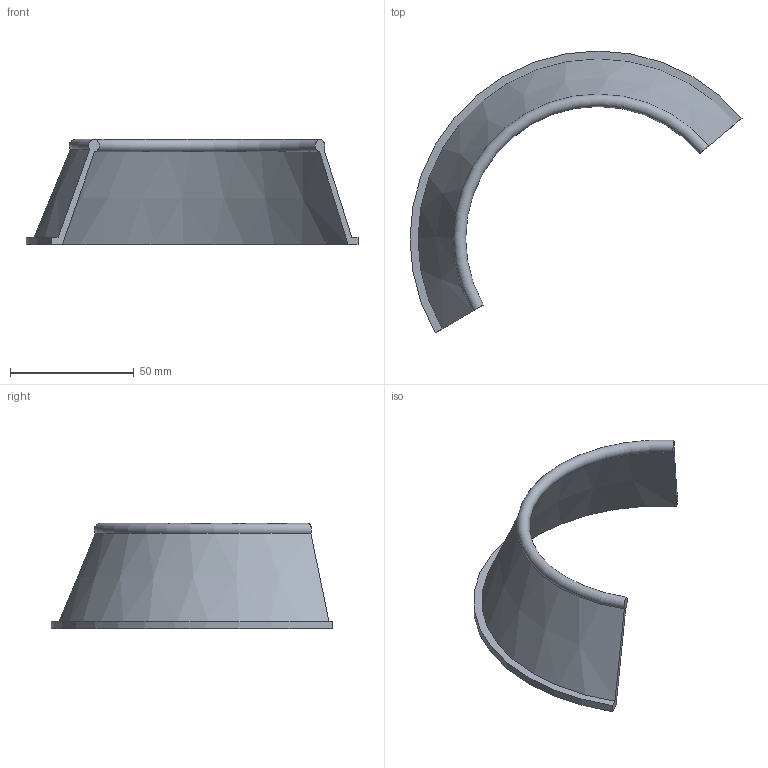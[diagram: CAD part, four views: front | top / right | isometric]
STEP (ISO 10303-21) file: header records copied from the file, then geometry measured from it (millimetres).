
FILE_DESCRIPTION(('Open CASCADE Model'),'2;1');
FILE_NAME('Open CASCADE Shape Model','2026-10-27T17:14:29',('Author'),( 'Open CASCADE'),'Open CASCADE STEP processor 8.0','build123d', 'Unknown');
FILE_SCHEMA(('AUTOMOTIVE_DESIGN { 1 0 10303 214 1 1 1 1 }'));
Length unit declared in the file: millimetre
Products named in the file (1): COMPOUND
Bounding box: 134.22 x 114 x 42.49 mm (x, y, z)
Volume: 26923.5 mm3; surface area: 20017.3 mm2
Topology: 1 solids, 1 shells, 8 faces, 18 edges, 12 vertices
Faces by surface type: plane 4, cone 2, torus 1, cylinder 1
Entity records: 458 total; most frequent: CARTESIAN_POINT 109, DIRECTION 56, ORIENTED_EDGE 36, PCURVE 36, DEFINITIONAL_REPRESENTATION 36, B_SPLINE_CURVE_WITH_KNOTS 22, EDGE_CURVE 18, SURFACE_CURVE 18
